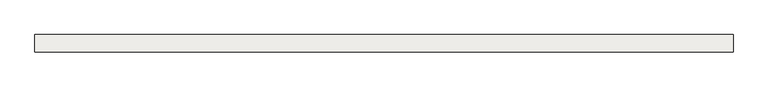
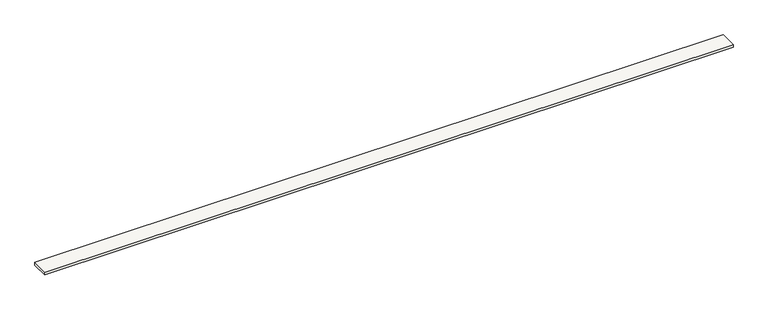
"""IFC4 building model written with IfcOpenShell, lengths in millimetres: slab geometry, Sol-02 - Dalle épine."""

from ifc_helpers import new_model, si_unit, frame, origin, place, context, project, spatial, polyline, outline, extrude, source, transform, mapped, element, save


def slab_8fa3b40b(model_context):
    return source(origin(), model_context, "Body", "SweptSolid", [
        extrude(outline(polyline([(-47879.998776, -19500.7903364), (-47879.998776, -20400.7903364), (-84069.9987764, -20400.7903364), (-84069.9987764, -19500.7903364), (-47879.998776, -19500.7903364)])), frame((0.0, 0.0, -690.0), z_axis=(0.0, 0.0, 1.0), x_axis=(1.0, 0.0, 0.0)), (0.0, 0.0, 1.0), 150.0),
    ])


if __name__ == "__main__":
    model = new_model("IFC4")
    model_context = context("Model", 3, world=origin())
    ifc_project = project(units=[si_unit("LENGTHUNIT", "METRE", prefix="MILLI")], contexts=[model_context])
    site = spatial("IfcSite", under=ifc_project)
    building = spatial("IfcBuilding", under=site)
    placement = place(None, origin())
    slab_shape = slab_8fa3b40b(model_context)
    element("IfcSlab", 1, ObjectType="Sol-02 - Dalle épine", at=placement, inside=building, context=model_context, shape_type="MappedRepresentation", body=[
        mapped(slab_shape, transform((0.0, 0.0, 0.0), x_axis=(1.0, 0.0, 0.0), y_axis=(0.0, 1.0, 0.0), z_axis=(0.0, 0.0, 1.0))),
    ])
    save(model, "model.ifc")
